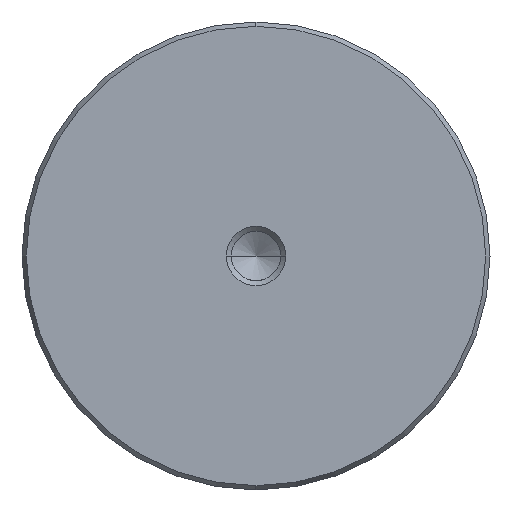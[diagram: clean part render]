
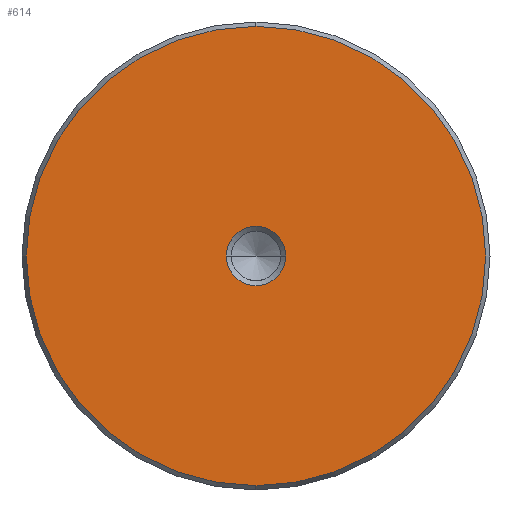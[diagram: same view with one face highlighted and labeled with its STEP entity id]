
A CAD part, left-side view. The second image highlights one B-rep face of the part: STEP entity #614.
In plain terms, the highlighted planar face has unit normal (-1, 0, 0).
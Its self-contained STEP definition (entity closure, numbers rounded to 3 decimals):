
#528=CARTESIAN_POINT('Vertex',(0.,0.,-30.923)) ;
#531=CARTESIAN_POINT('Axis2P3D Location',(0.,0.,0.)) ;
#535=CARTESIAN_POINT('Vertex',(0.,30.923,0.)) ;
#538=CARTESIAN_POINT('Axis2P3D Location',(0.,0.,0.)) ;
#542=CARTESIAN_POINT('Vertex',(0.,0.,30.923)) ;
#564=CARTESIAN_POINT('Axis2P3D Location',(0.,0.,0.)) ;
#568=CARTESIAN_POINT('Vertex',(0.,-30.923,0.)) ;
#571=CARTESIAN_POINT('Axis2P3D Location',(0.,0.,0.)) ;
#585=CARTESIAN_POINT('Axis2P3D Location',(0.,0.,0.)) ;
#596=CARTESIAN_POINT('Axis2P3D Location',(0.,0.,0.)) ;
#600=CARTESIAN_POINT('Vertex',(0.,4.,0.)) ;
#602=CARTESIAN_POINT('Vertex',(0.,-4.,0.)) ;
#605=CARTESIAN_POINT('Axis2P3D Location',(0.,0.,0.)) ;
#532=DIRECTION('Axis2P3D Direction',(1.,0.,-0.)) ;
#539=DIRECTION('Axis2P3D Direction',(1.,0.,-0.)) ;
#565=DIRECTION('Axis2P3D Direction',(1.,0.,-0.)) ;
#572=DIRECTION('Axis2P3D Direction',(1.,0.,-0.)) ;
#586=DIRECTION('Axis2P3D Direction',(1.,0.,-0.)) ;
#587=DIRECTION('Axis2P3D XDirection',(-0.,0.,-1.)) ;
#597=DIRECTION('Axis2P3D Direction',(1.,0.,-0.)) ;
#606=DIRECTION('Axis2P3D Direction',(1.,0.,-0.)) ;
#533=AXIS2_PLACEMENT_3D('Circle Axis2P3D',#531,#532,$) ;
#540=AXIS2_PLACEMENT_3D('Circle Axis2P3D',#538,#539,$) ;
#566=AXIS2_PLACEMENT_3D('Circle Axis2P3D',#564,#565,$) ;
#573=AXIS2_PLACEMENT_3D('Circle Axis2P3D',#571,#572,$) ;
#588=AXIS2_PLACEMENT_3D('Plane Axis2P3D',#585,#586,#587) ;
#598=AXIS2_PLACEMENT_3D('Circle Axis2P3D',#596,#597,$) ;
#607=AXIS2_PLACEMENT_3D('Circle Axis2P3D',#605,#606,$) ;
#591=ORIENTED_EDGE('',*,*,#537,.F.) ;
#592=ORIENTED_EDGE('',*,*,#575,.F.) ;
#593=ORIENTED_EDGE('',*,*,#570,.F.) ;
#594=ORIENTED_EDGE('',*,*,#544,.F.) ;
#611=ORIENTED_EDGE('',*,*,#604,.T.) ;
#612=ORIENTED_EDGE('',*,*,#609,.T.) ;
#613=FACE_BOUND('',#610,.T.) ;
#614=ADVANCED_FACE('720-63x280',(#595,#613),#589,.F.) ;
#534=CIRCLE('generated circle',#533,30.923) ;
#541=CIRCLE('generated circle',#540,30.923) ;
#567=CIRCLE('generated circle',#566,30.923) ;
#574=CIRCLE('generated circle',#573,30.923) ;
#599=CIRCLE('generated circle',#598,4.) ;
#608=CIRCLE('generated circle',#607,4.) ;
#537=EDGE_CURVE('',#529,#536,#534,.T.) ;
#544=EDGE_CURVE('',#536,#543,#541,.T.) ;
#570=EDGE_CURVE('',#543,#569,#567,.T.) ;
#575=EDGE_CURVE('',#569,#529,#574,.T.) ;
#604=EDGE_CURVE('',#601,#603,#599,.T.) ;
#609=EDGE_CURVE('',#603,#601,#608,.T.) ;
#590=EDGE_LOOP('',(#591,#592,#593,#594)) ;
#610=EDGE_LOOP('',(#611,#612)) ;
#595=FACE_OUTER_BOUND('',#590,.T.) ;
#589=PLANE('Plane',#588) ;
#529=VERTEX_POINT('',#528) ;
#536=VERTEX_POINT('',#535) ;
#543=VERTEX_POINT('',#542) ;
#569=VERTEX_POINT('',#568) ;
#601=VERTEX_POINT('',#600) ;
#603=VERTEX_POINT('',#602) ;
